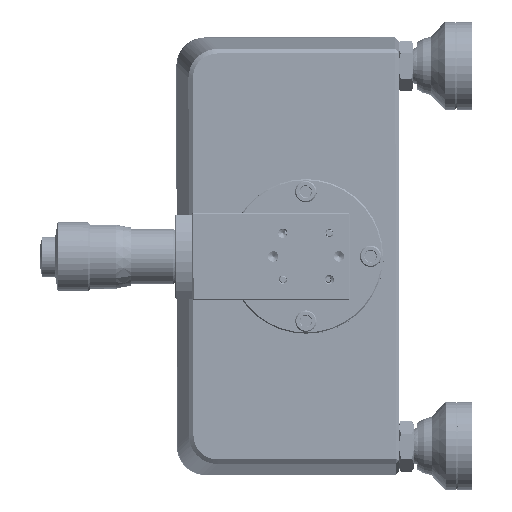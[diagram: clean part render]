
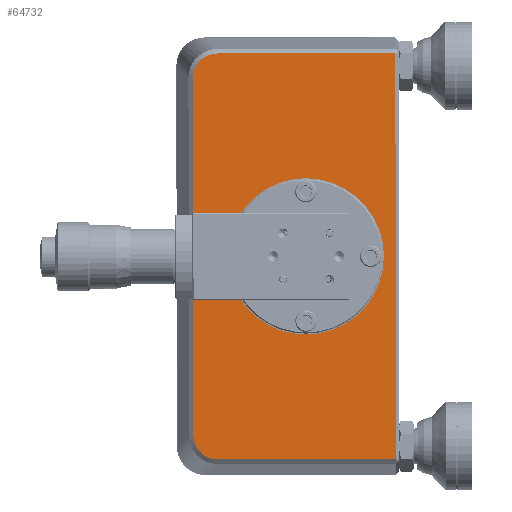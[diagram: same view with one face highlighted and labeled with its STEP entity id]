
A CAD part, left-side view. The second image highlights one B-rep face of the part: STEP entity #64732.
In plain terms, the highlighted planar face has unit normal (-1, -0.002, -0.001).
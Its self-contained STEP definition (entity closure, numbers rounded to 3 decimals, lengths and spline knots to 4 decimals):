
#3464 = AXIS2_PLACEMENT_3D ( 'NONE', #54445, #109063, #242448 ) ;
#3678 = DIRECTION ( 'NONE',  ( 1., 0.002, 0.001 ) ) ;
#3716 = ORIENTED_EDGE ( 'NONE', *, *, #100271, .T. ) ;
#4330 = VECTOR ( 'NONE', #251322, 39.3701 ) ;
#9710 = VECTOR ( 'NONE', #108533, 39.3701 ) ;
#14701 = VERTEX_POINT ( 'NONE', #224080 ) ;
#15596 = ORIENTED_EDGE ( 'NONE', *, *, #175522, .F. ) ;
#16147 = CARTESIAN_POINT ( 'NONE',  ( -0.0935, -6.7442, -3.016 ) ) ;
#17709 = CARTESIAN_POINT ( 'NONE',  ( -0.0909, -8.3991, -3.0556 ) ) ;
#18178 = DIRECTION ( 'NONE',  ( 0.002, -1., 0.001 ) ) ;
#19165 = VERTEX_POINT ( 'NONE', #87696 ) ;
#24768 = VERTEX_POINT ( 'NONE', #17709 ) ;
#27981 = VERTEX_POINT ( 'NONE', #89092 ) ;
#28924 = CIRCLE ( 'NONE', #126292, 0.67 ) ;
#31358 = CARTESIAN_POINT ( 'NONE',  ( -0.0945, -6.6618, -1.3177 ) ) ;
#31476 = CARTESIAN_POINT ( 'NONE',  ( -0.0933, -6.8454, -3.0576 ) ) ;
#34595 = EDGE_CURVE ( 'NONE', #24768, #100737, #203855, .T. ) ;
#35241 = CARTESIAN_POINT ( 'NONE',  ( -0.0936, -6.6902, -2.9543 ) ) ;
#37692 = CARTESIAN_POINT ( 'NONE',  ( -0.0953, -6.6598, 0.241 ) ) ;
#39561 = B_SPLINE_CURVE_WITH_KNOTS ( 'NONE', 3,
 ( #50527, #73329, #209214, #35241, #205474, #16147, #93627, #171074, #31476, #70823 ),
 .UNSPECIFIED., .F., .F.,
 ( 4, 2, 2, 2, 4 ),
 ( 0., 0.25, 0.5, 0.75, 1. ),
 .UNSPECIFIED. ) ;
#41931 = ORIENTED_EDGE ( 'NONE', *, *, #208127, .T. ) ;
#44138 = CIRCLE ( 'NONE', #3464, 0.67 ) ;
#48682 = DIRECTION ( 'NONE',  ( -0.001, 0.001, 1. ) ) ;
#50527 = CARTESIAN_POINT ( 'NONE',  ( -0.0937, -6.6638, -2.8489 ) ) ;
#54445 = CARTESIAN_POINT ( 'NONE',  ( -0.093, -7.6269, -1.3165 ) ) ;
#55471 = CARTESIAN_POINT ( 'NONE',  ( -0.0953, -6.6652, 0.2684 ) ) ;
#62968 = CARTESIAN_POINT ( 'NONE',  ( -0.0934, -7.626, -0.6465 ) ) ;
#64732 = ADVANCED_FACE ( 'NONE', ( #115565, #234860 ), #76171, .F. ) ;
#70823 = CARTESIAN_POINT ( 'NONE',  ( -0.0933, -6.873, -3.0575 ) ) ;
#73329 = CARTESIAN_POINT ( 'NONE',  ( -0.0937, -6.6638, -2.8764 ) ) ;
#74083 = LINE ( 'NONE', #135009, #155832 ) ;
#75518 = EDGE_LOOP ( 'NONE', ( #3716, #137202, #154817, #167490, #248957, #41931 ) ) ;
#76171 = PLANE ( 'NONE',  #195499 ) ;
#87696 = CARTESIAN_POINT ( 'NONE',  ( -0.0933, -6.873, -3.0575 ) ) ;
#89092 = CARTESIAN_POINT ( 'NONE',  ( -0.0937, -6.6638, -2.8489 ) ) ;
#89495 = CARTESIAN_POINT ( 'NONE',  ( -0.0918, -8.3969, -1.3155 ) ) ;
#93569 = CARTESIAN_POINT ( 'NONE',  ( -0.0953, -6.6598, 0.2134 ) ) ;
#93627 = CARTESIAN_POINT ( 'NONE',  ( -0.0935, -6.7675, -3.0314 ) ) ;
#96395 = LINE ( 'NONE', #192903, #4330 ) ;
#100271 = EDGE_CURVE ( 'NONE', #27981, #19165, #39561, .T. ) ;
#100737 = VERTEX_POINT ( 'NONE', #150453 ) ;
#108533 = DIRECTION ( 'NONE',  ( -0.001, 0.001, 1. ) ) ;
#109063 = DIRECTION ( 'NONE',  ( -1., -0.002, -0.001 ) ) ;
#112607 = CARTESIAN_POINT ( 'NONE',  ( -0.0927, -7.6278, -1.9865 ) ) ;
#115054 = ORIENTED_EDGE ( 'NONE', *, *, #206231, .F. ) ;
#115565 = FACE_OUTER_BOUND ( 'NONE', #75518, .T. ) ;
#116812 = DIRECTION ( 'NONE',  ( 0.001, -0.001, -1. ) ) ;
#121390 = CARTESIAN_POINT ( 'NONE',  ( -0.0951, -6.8685, 0.4226 ) ) ;
#126292 = AXIS2_PLACEMENT_3D ( 'NONE', #146429, #220210, #48682 ) ;
#131566 = EDGE_CURVE ( 'NONE', #19165, #24768, #74083, .T. ) ;
#132571 = VERTEX_POINT ( 'NONE', #112607 ) ;
#133352 = VERTEX_POINT ( 'NONE', #62968 ) ;
#135009 = CARTESIAN_POINT ( 'NONE',  ( -0.0923, -7.4791, -3.0568 ) ) ;
#137202 = ORIENTED_EDGE ( 'NONE', *, *, #131566, .T. ) ;
#146429 = CARTESIAN_POINT ( 'NONE',  ( -0.093, -7.6269, -1.3165 ) ) ;
#150453 = CARTESIAN_POINT ( 'NONE',  ( -0.0927, -8.3946, 0.4246 ) ) ;
#150710 = CARTESIAN_POINT ( 'NONE',  ( -0.0951, -6.8685, 0.4226 ) ) ;
#153200 = CARTESIAN_POINT ( 'NONE',  ( -0.0952, -6.763, 0.3962 ) ) ;
#154817 = ORIENTED_EDGE ( 'NONE', *, *, #34595, .T. ) ;
#154894 = VECTOR ( 'NONE', #164684, 39.3701 ) ;
#155832 = VECTOR ( 'NONE', #18178, 39.3701 ) ;
#164684 = DIRECTION ( 'NONE',  ( 0.001, -0.001, -1. ) ) ;
#167490 = ORIENTED_EDGE ( 'NONE', *, *, #237421, .T. ) ;
#168433 = LINE ( 'NONE', #31358, #154894 ) ;
#171074 = CARTESIAN_POINT ( 'NONE',  ( -0.0934, -6.818, -3.0522 ) ) ;
#172272 = CARTESIAN_POINT ( 'NONE',  ( -0.0952, -6.8135, 0.4171 ) ) ;
#173581 = EDGE_LOOP ( 'NONE', ( #15596, #115054 ) ) ;
#175522 = EDGE_CURVE ( 'NONE', #133352, #132571, #44138, .T. ) ;
#176929 = B_SPLINE_CURVE_WITH_KNOTS ( 'NONE', 3,
 ( #150710, #188828, #172272, #153200, #190077, #233196, #191339, #55471, #37692, #93569 ),
 .UNSPECIFIED., .F., .F.,
 ( 4, 2, 2, 2, 4 ),
 ( 0., 0.25, 0.5, 0.75, 1. ),
 .UNSPECIFIED. ) ;
#188828 = CARTESIAN_POINT ( 'NONE',  ( -0.0951, -6.841, 0.4226 ) ) ;
#190077 = CARTESIAN_POINT ( 'NONE',  ( -0.0953, -6.7398, 0.3807 ) ) ;
#191339 = CARTESIAN_POINT ( 'NONE',  ( -0.0953, -6.6859, 0.3189 ) ) ;
#192903 = CARTESIAN_POINT ( 'NONE',  ( -0.0941, -7.4746, 0.4234 ) ) ;
#195499 = AXIS2_PLACEMENT_3D ( 'NONE', #213335, #3678, #116812 ) ;
#203855 = LINE ( 'NONE', #89495, #9710 ) ;
#205474 = CARTESIAN_POINT ( 'NONE',  ( -0.0936, -6.7057, -2.9775 ) ) ;
#206231 = EDGE_CURVE ( 'NONE', #132571, #133352, #28924, .T. ) ;
#208127 = EDGE_CURVE ( 'NONE', #14701, #27981, #168433, .T. ) ;
#209214 = CARTESIAN_POINT ( 'NONE',  ( -0.0937, -6.6693, -2.9039 ) ) ;
#213335 = CARTESIAN_POINT ( 'NONE',  ( -0.0932, -7.4769, -1.3167 ) ) ;
#220210 = DIRECTION ( 'NONE',  ( -1., -0.002, -0.001 ) ) ;
#224080 = CARTESIAN_POINT ( 'NONE',  ( -0.0953, -6.6598, 0.2134 ) ) ;
#233196 = CARTESIAN_POINT ( 'NONE',  ( -0.0953, -6.7014, 0.3422 ) ) ;
#234124 = EDGE_CURVE ( 'NONE', #249088, #14701, #176929, .T. ) ;
#234860 = FACE_BOUND ( 'NONE', #173581, .T. ) ;
#237421 = EDGE_CURVE ( 'NONE', #100737, #249088, #96395, .T. ) ;
#242448 = DIRECTION ( 'NONE',  ( -0.001, 0.001, 1. ) ) ;
#248957 = ORIENTED_EDGE ( 'NONE', *, *, #234124, .T. ) ;
#249088 = VERTEX_POINT ( 'NONE', #121390 ) ;
#251322 = DIRECTION ( 'NONE',  ( -0.002, 1., -0.001 ) ) ;
